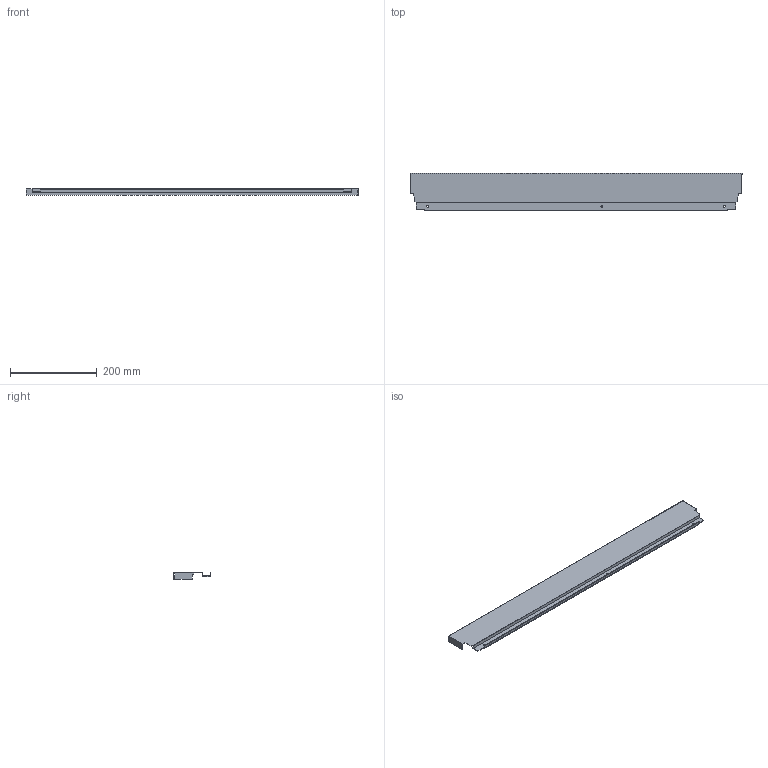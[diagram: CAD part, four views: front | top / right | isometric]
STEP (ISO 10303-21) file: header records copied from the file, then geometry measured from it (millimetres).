
FILE_DESCRIPTION (( 'STEP AP214' ), '1' );
FILE_NAME ('_DWD_XP Stahlrückwand_H86_KAB850_S17.step', '2010-07-08T12:10:13', ( 'grass' ), ( '' ), 'SwSTEP 2.0', 'SolidWorks 2010', '' );
FILE_SCHEMA (( 'AUTOMOTIVE_DESIGN' ));
Length unit declared in the file: millimetre
Products named in the file (1): _DWD_XP Stahlrückwand_H86_KAB850_S17
Bounding box: 767 x 85.79 x 16 mm (x, y, z)
Volume: 82132.9 mm3; surface area: 178383.6 mm2
Topology: 1 solids, 1 shells, 50 faces, 144 edges, 96 vertices
Faces by surface type: plane 44, cylinder 6
Entity records: 1666 total; most frequent: CARTESIAN_POINT 291, ORIENTED_EDGE 288, DIRECTION 258, EDGE_CURVE 144, VECTOR 132, LINE 132, VERTEX_POINT 96, AXIS2_PLACEMENT_3D 63
